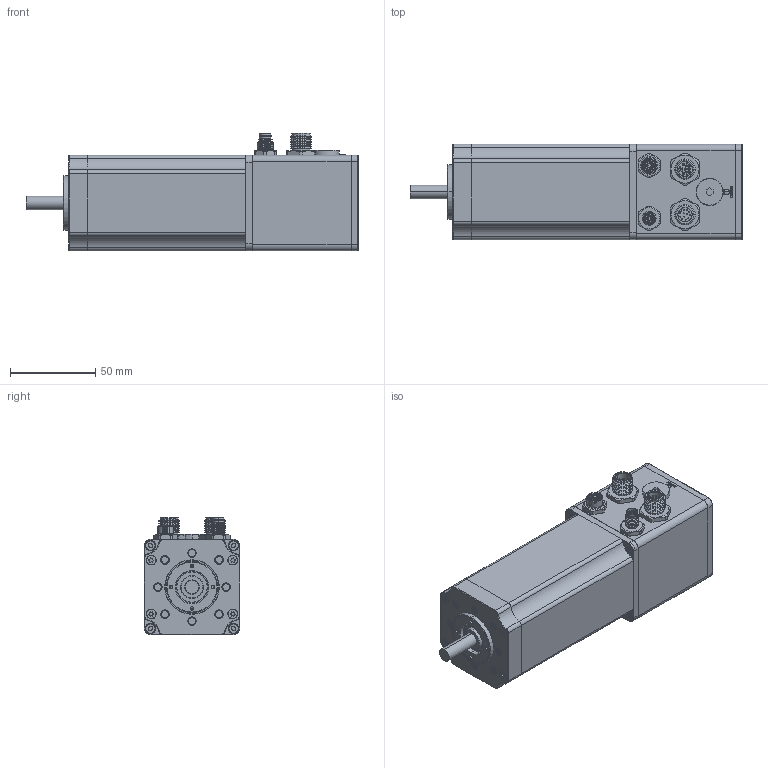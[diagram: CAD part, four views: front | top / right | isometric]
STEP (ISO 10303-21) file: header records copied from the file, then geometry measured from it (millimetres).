
FILE_DESCRIPTION(('STEP AP214'),'1');
FILE_NAME('cctmp_8746E861-C06B-42BB-87F2-8ABD47246773_2020_1_31_16_9_30_653..stp','2020-01-31T15:09:32',('maxon motor ag'),('CADClick - www.CADClick.com'),'Spatial InterOp 3D',' ','unknown authorization');
FILE_SCHEMA(('AUTOMOTIVE_DESIGN'));
Length unit declared in the file: millimetre
Products named in the file (39): 0
Assembly tree (38 placements, depth 2):
  (unnamed)
    0
    0
    0
    0
    0
    0
    0
    0
    0
    0
    0
    0
    0
    0
    0
    0
    0
    0
    0
    0
    0
    0
    0
    0
    0
    0
    0
    0
    0
    0
    0
    0
    0
    0
    0
    0
    0
    0
Bounding box: 195 x 56 x 69 mm (x, y, z)
Volume: 509281.9 mm3; surface area: 81615.6 mm2
Topology: 50 solids, 51 shells, 1866 faces, 4270 edges, 2564 vertices
Faces by surface type: cone 706, cylinder 540, plane 498, torus 100, sphere 12, bspline 10
Entity records: 77205 total; most frequent: DIRECTION 10019, CARTESIAN_POINT 8997, ORIENTED_EDGE 8504, EDGE_CURVE 4252, AXIS2_PLACEMENT_3D 3914, STYLED_ITEM 3660, PRESENTATION_STYLE_ASSIGNMENT 3660, COLOUR_RGB 3660
